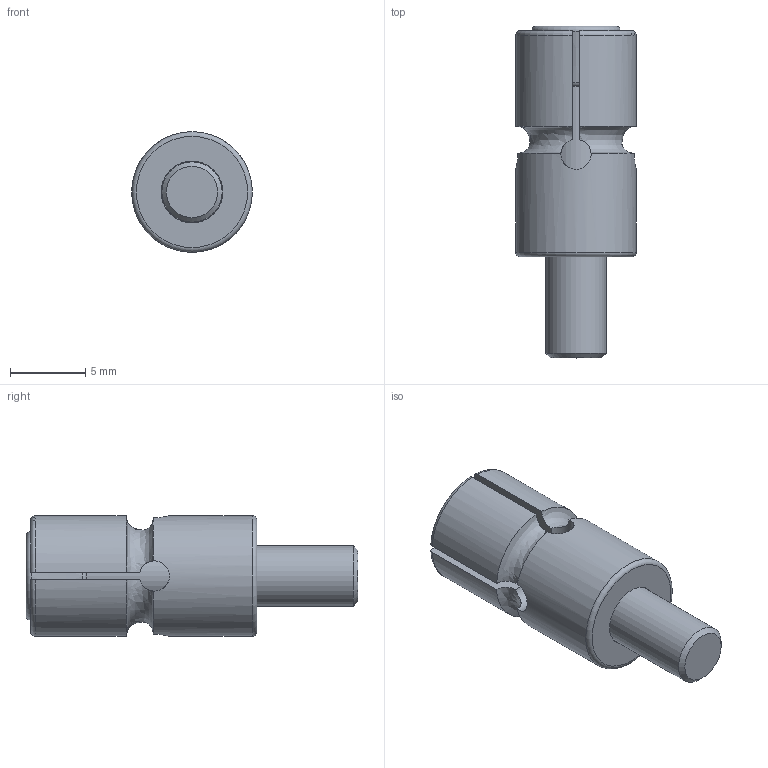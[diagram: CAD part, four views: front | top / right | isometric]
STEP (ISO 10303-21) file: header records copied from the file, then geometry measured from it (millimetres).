
FILE_DESCRIPTION(/* description */ (''),/* implementation_level */ '2;1');
FILE_NAME(/* name */ '8MM扩张销.stp',/* time_stamp */ '2023-11-23T21:39:51+08:00',/* author */ (''),/* organization */ (''),/* preprocessor_version */ 'ST-DEVELOPER v16',/* originating_system */ 'SIEMENS PLM Software NX 10.0',/* authorisation */ '');
FILE_SCHEMA (('CONFIG_CONTROL_DESIGN'));
Length unit declared in the file: millimetre
Products named in the file (1): 8MM扩张销_stp
Bounding box: 7.98 x 22 x 7.98 mm (x, y, z)
Volume: 737 mm3; surface area: 1089 mm2
Topology: 2 solids, 3 shells, 63 faces, 162 edges, 106 vertices
Faces by surface type: plane 25, cylinder 18, torus 7, bspline 7, cone 6
Full cylindrical faces by diameter (mm): 4 x1, 4.1 x1, 7.98 x1
Entity records: 7536 total; most frequent: CARTESIAN_POINT 6086, ORIENTED_EDGE 300, DIRECTION 238, EDGE_CURVE 150, VERTEX_POINT 102, AXIS2_PLACEMENT_3D 90, EDGE_LOOP 74, ADVANCED_FACE 63
